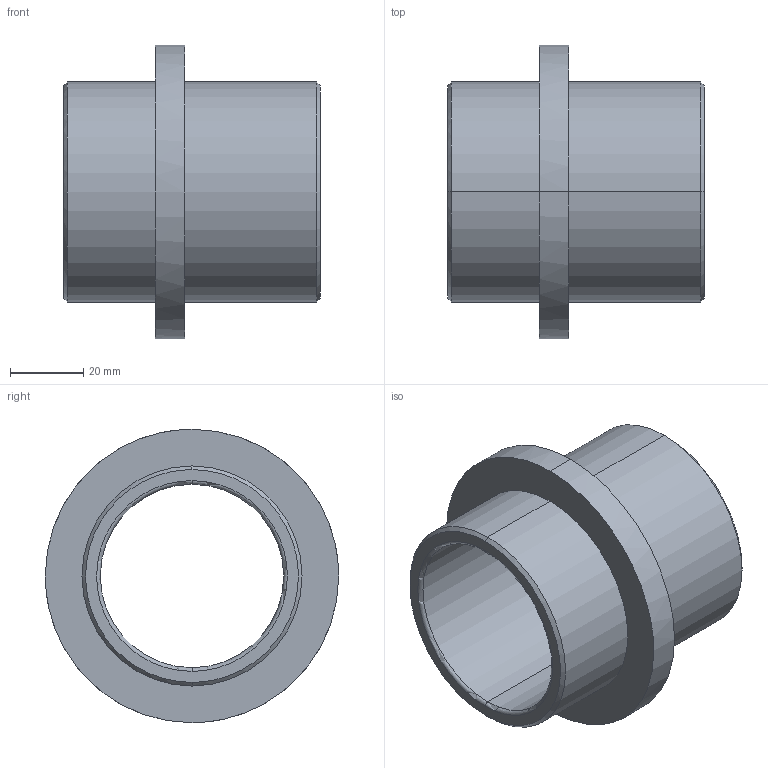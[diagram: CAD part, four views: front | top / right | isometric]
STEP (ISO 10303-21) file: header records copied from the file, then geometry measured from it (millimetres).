
FILE_DESCRIPTION(('CATIA V5 STEP Exchange'),'2;1');
FILE_NAME('C:\Users\Utente\Desktop\IO LAVORO\3D X SITO CF\X SITO\PLASTICA\G403\G403-50X70.stp','2021-04-21T11:24:02+00:00',('none'),('none'),'CATIA Version 5 Release 20 GA (IN-10)','CATIA V5 STEP AP203','none');
FILE_SCHEMA(('CONFIG_CONTROL_DESIGN'));
Length unit declared in the file: millimetre
Products named in the file (1): G403-50X70
Bounding box: 70 x 80 x 80 mm (x, y, z)
Volume: 77814.2 mm3; surface area: 30461.6 mm2
Topology: 1 solids, 1 shells, 20 faces, 64 edges, 48 vertices
Faces by surface type: cylinder 8, plane 4, cone 4, torus 4
Entity records: 906 total; most frequent: CARTESIAN_POINT 301, ORIENTED_EDGE 128, DIRECTION 92, EDGE_CURVE 64, AXIS2_PLACEMENT_3D 61, VERTEX_POINT 48, CIRCLE 40, EDGE_LOOP 24
